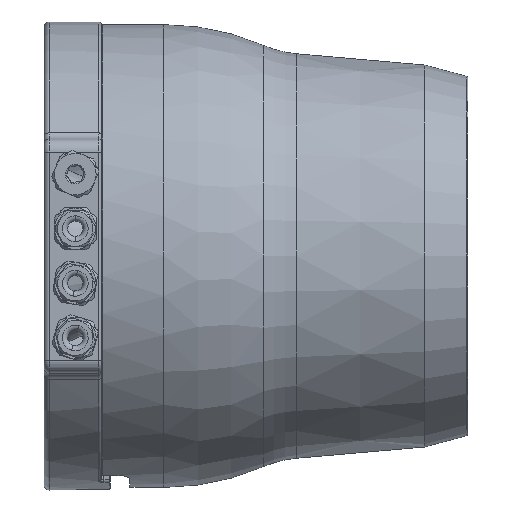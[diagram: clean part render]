
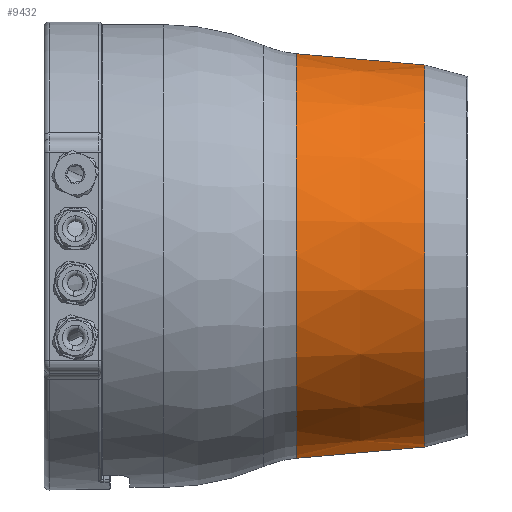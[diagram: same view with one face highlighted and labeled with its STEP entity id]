
A CAD part, left-side view. The second image highlights one B-rep face of the part: STEP entity #9432.
In plain terms, the highlighted conical face has half-angle 5 degrees and reference radius 77.774 mm.
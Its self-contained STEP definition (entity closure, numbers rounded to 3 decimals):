
#327 = CARTESIAN_POINT ( 'NONE',  ( 0., 16.624, -73.454 ) ) ;
#1304 = DIRECTION ( 'NONE',  ( 0., 0.996, -0.087 ) ) ;
#1415 = DIRECTION ( 'NONE',  ( 0., -1., 0. ) ) ;
#2241 = EDGE_LOOP ( 'NONE', ( #4714, #11593, #7194, #14309 ) ) ;
#2296 = DIRECTION ( 'NONE',  ( 0., 0., 1. ) ) ;
#2998 = EDGE_CURVE ( 'NONE', #15325, #17074, #9315, .T. ) ;
#3639 = CARTESIAN_POINT ( 'NONE',  ( 0., 16.624, 0. ) ) ;
#3829 = EDGE_CURVE ( 'NONE', #7307, #6082, #4794, .T. ) ;
#3875 = CARTESIAN_POINT ( 'NONE',  ( 0., 66., -77.774 ) ) ;
#3914 = DIRECTION ( 'NONE',  ( 0., 1., 0. ) ) ;
#4264 = CARTESIAN_POINT ( 'NONE',  ( 0., 66., 77.774 ) ) ;
#4714 = ORIENTED_EDGE ( 'NONE', *, *, #13741, .F. ) ;
#4794 = CIRCLE ( 'NONE', #15341, 73.454 ) ;
#5223 = DIRECTION ( 'NONE',  ( 0., 1., 0. ) ) ;
#5428 = DIRECTION ( 'NONE',  ( 0., 0.996, 0.087 ) ) ;
#6082 = VERTEX_POINT ( 'NONE', #16930 ) ;
#7194 = ORIENTED_EDGE ( 'NONE', *, *, #10120, .T. ) ;
#7307 = VERTEX_POINT ( 'NONE', #327 ) ;
#7908 = CARTESIAN_POINT ( 'NONE',  ( 0., 66., 0. ) ) ;
#9315 = CIRCLE ( 'NONE', #13266, 77.774 ) ;
#9432 = ADVANCED_FACE ( 'NONE', ( #12962 ), #11173, .T. ) ;
#10120 = EDGE_CURVE ( 'NONE', #6082, #15325, #17541, .T. ) ;
#10690 = LINE ( 'NONE', #3875, #12304 ) ;
#11173 = CONICAL_SURFACE ( 'NONE', #16340, 77.774, 0.087 ) ;
#11299 = CARTESIAN_POINT ( 'NONE',  ( 0., 66., 77.774 ) ) ;
#11593 = ORIENTED_EDGE ( 'NONE', *, *, #3829, .T. ) ;
#12304 = VECTOR ( 'NONE', #1304, 1000. ) ;
#12962 = FACE_OUTER_BOUND ( 'NONE', #2241, .T. ) ;
#12980 = CARTESIAN_POINT ( 'NONE',  ( 0., 66., -77.774 ) ) ;
#13266 = AXIS2_PLACEMENT_3D ( 'NONE', #7908, #1415, #16382 ) ;
#13426 = DIRECTION ( 'NONE',  ( 0., 0., 1. ) ) ;
#13741 = EDGE_CURVE ( 'NONE', #7307, #17074, #10690, .T. ) ;
#14309 = ORIENTED_EDGE ( 'NONE', *, *, #2998, .T. ) ;
#14852 = VECTOR ( 'NONE', #5428, 1000. ) ;
#15325 = VERTEX_POINT ( 'NONE', #11299 ) ;
#15341 = AXIS2_PLACEMENT_3D ( 'NONE', #3639, #3914, #13426 ) ;
#15559 = CARTESIAN_POINT ( 'NONE',  ( 0., 66., 0. ) ) ;
#16340 = AXIS2_PLACEMENT_3D ( 'NONE', #15559, #5223, #2296 ) ;
#16382 = DIRECTION ( 'NONE',  ( 0., 0., -1. ) ) ;
#16930 = CARTESIAN_POINT ( 'NONE',  ( 0., 16.624, 73.454 ) ) ;
#17074 = VERTEX_POINT ( 'NONE', #12980 ) ;
#17541 = LINE ( 'NONE', #4264, #14852 ) ;
